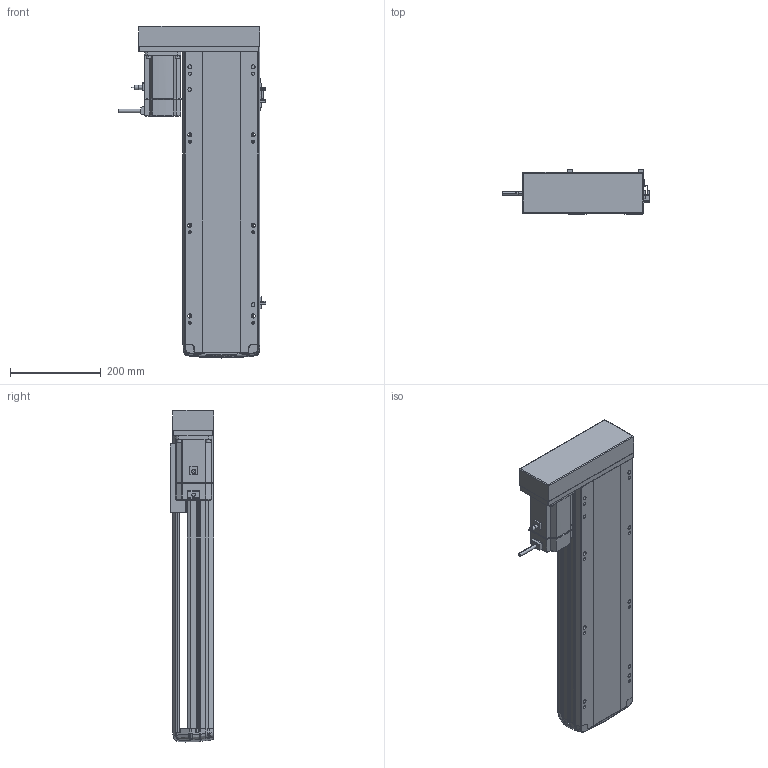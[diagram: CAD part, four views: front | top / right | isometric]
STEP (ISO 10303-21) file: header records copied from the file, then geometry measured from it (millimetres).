
FILE_DESCRIPTION (( 'STEP AP214' ), '1' );
FILE_NAME ('RTH17-XX-450-R-M75-C4.STEP', '2025-10-24T10:15:33', ( '' ), ( '' ), 'SwSTEP 2.0', 'SolidWorks 2018', '' );
FILE_SCHEMA (( 'AUTOMOTIVE_DESIGN' ));
Length unit declared in the file: millimetre
Products named in the file (10): N_RTH17-GY-001P^RTH17-XX-XX-R-M75-C4（方程式）; N_RTH-L-012 感应片(外置)^RTH17-XX-XX-R-M75-C4（方程式）; N_RTH17-M-011底座^RTH17-XX-XX-R-M75-C4（方程式）; N_RTH17-L-018盖子^RTH17-XX-XX-R-M75-C4（方程式）; N_RTH17-M-007上盖^RTH17-XX-XX-R-M75-C4（方程式）; N_RTH17-L-008-P75电机安装板左转折^RTH17-XX-XX-R-M75-C4（方程式）; RTH17-XX-450-R-M75-C4; N_OMRON EE-SX672 換覜ん^RTH17-XX-XX-R-M75-C4ㄗ源最宒ㄘ; N_RTH17-E-004丝杆螺母连接座^RTH17-XX-XX-R-M75-C4（方程式）; N_M75^RTH17-XX-XX-R-M75-C4（方程式）
Assembly tree (11 placements, depth 2):
  RTH17-XX-450-R-M75-C4
    N_RTH17-M-011底座^RTH17-XX-XX-R-M75-C4（方程式）
    N_RTH17-M-007上盖^RTH17-XX-XX-R-M75-C4（方程式）
    N_M75^RTH17-XX-XX-R-M75-C4（方程式）
    N_OMRON EE-SX672 換覜ん^RTH17-XX-XX-R-M75-C4ㄗ源最宒ㄘ  x3
    N_RTH-L-012 感应片(外置)^RTH17-XX-XX-R-M75-C4（方程式）
    N_RTH17-L-008-P75电机安装板左转折^RTH17-XX-XX-R-M75-C4（方程式）
    N_RTH17-L-018盖子^RTH17-XX-XX-R-M75-C4（方程式）
    N_RTH17-E-004丝杆螺母连接座^RTH17-XX-XX-R-M75-C4（方程式）
    N_RTH17-GY-001P^RTH17-XX-XX-R-M75-C4（方程式）
Bounding box: 326.2 x 97 x 733.07 mm (x, y, z)
Volume: 7451029.3 mm3; surface area: 934616.1 mm2
Topology: 13 solids, 15 shells, 1725 faces, 4727 edges, 3058 vertices
Faces by surface type: plane 829, cylinder 482, bspline 377, cone 28, torus 9
Entity records: 49821 total; most frequent: CARTESIAN_POINT 19987, ORIENTED_EDGE 6478, DIRECTION 5383, EDGE_CURVE 3243, VERTEX_POINT 2094, AXIS2_PLACEMENT_3D 1801, VECTOR 1781, LINE 1781
